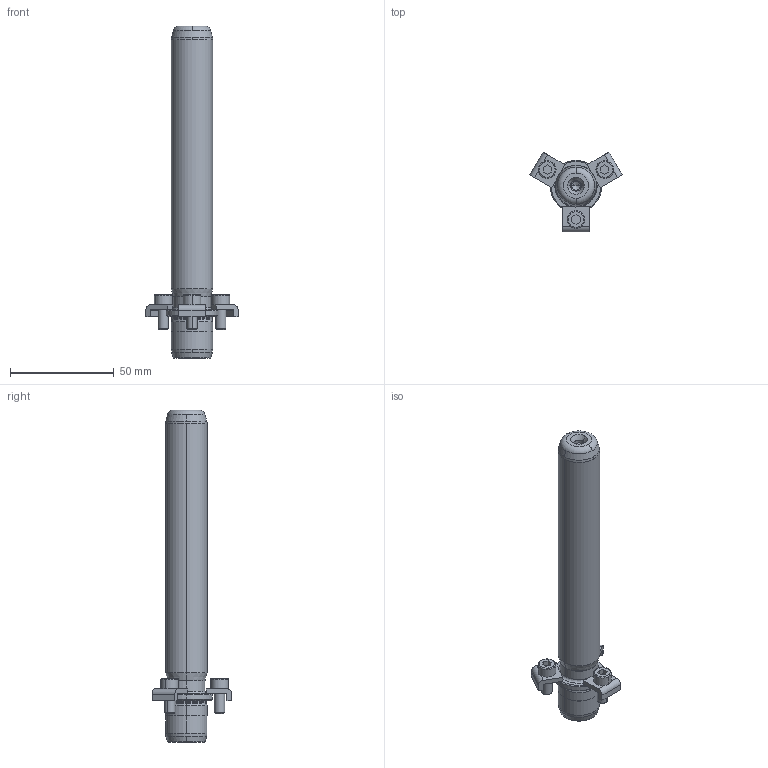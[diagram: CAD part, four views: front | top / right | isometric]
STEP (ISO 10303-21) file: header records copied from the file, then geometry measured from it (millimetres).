
FILE_DESCRIPTION((''),'2;1');
FILE_NAME('P21_020_140.stp','2008-12-19T11:24:01',(''),(''),'Mechanical Desktop 2009','Mechanical Desktop 2009',', , ');
FILE_SCHEMA(('CONFIG_CONTROL_DESIGN'));
Length unit declared in the file: millimetre
Products named in the file (2): Product; blmdl1
Assembly tree (1 placements, depth 2):
  Product
    blmdl1
Bounding box: 44.46 x 38.5 x 160 mm (x, y, z)
Volume: 51824.1 mm3; surface area: 14156.1 mm2
Topology: 7 solids, 7 shells, 169 faces, 417 edges, 269 vertices
Faces by surface type: plane 62, cylinder 47, cone 32, bspline 18, torus 10
Entity records: 5881 total; most frequent: CARTESIAN_POINT 1645, DIRECTION 936, ORIENTED_EDGE 826, EDGE_CURVE 413, AXIS2_PLACEMENT_3D 370, VERTEX_POINT 269, CIRCLE 217, VECTOR 196
